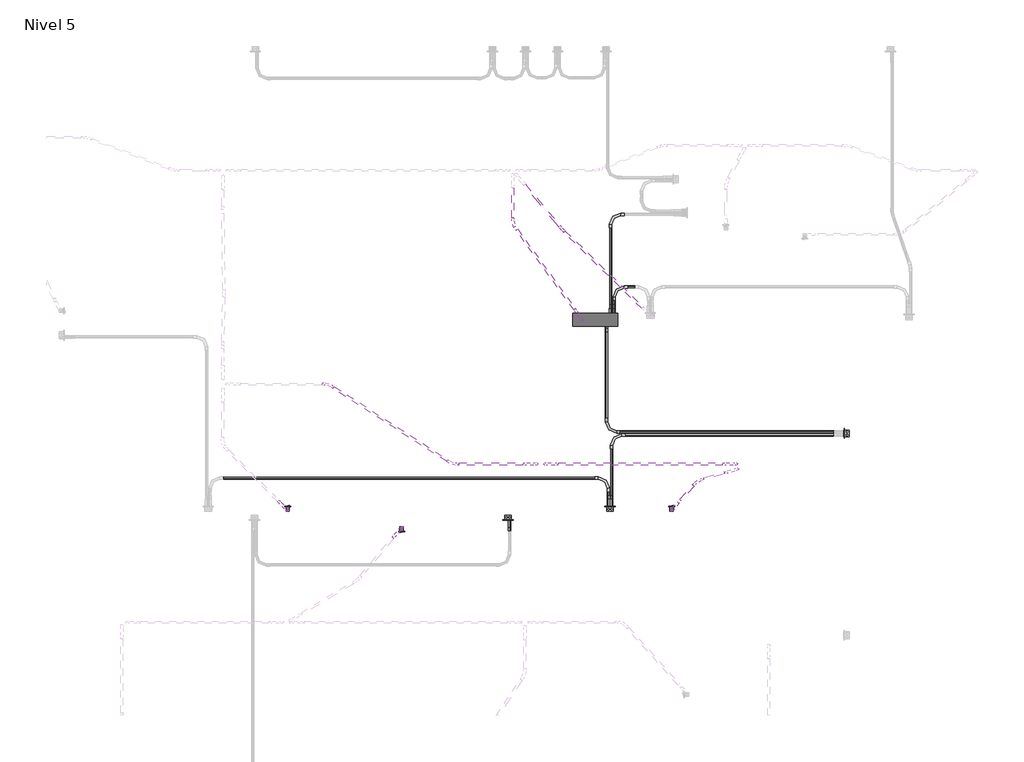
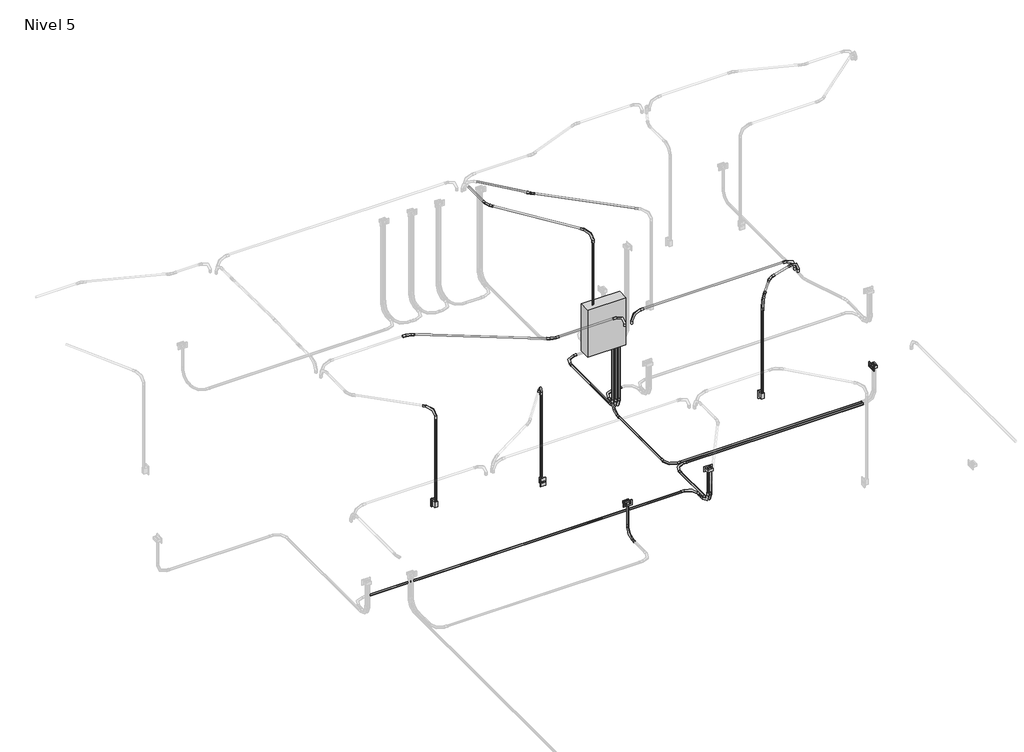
# One storey, part 7 of 9: 28 cable carrier segments, 24 cable carrier fittings, 4 proxies, 3 switching devices.
"""IFC4 building model written with IfcOpenShell, lengths in millimetres."""

from ifc_helpers import new_model, si_unit, point, frame, frame_2d, origin, place, context, project, spatial, circle_curve, trimmed, segment, composite_curve, outline, extrude, transform, mapped, element, save
from components import proxy_125_a_fe578df2, gfci_180f1b41, m_codo_de_tubo_extremo_liso_pvc_9da73e12, m_codo_de_tubo_extremo_liso_pvc_102f0f41, m_codo_de_tubo_extremo_liso_pvc_cdaa3b49, m_codo_de_tubo_extremo_liso_pvc_e85de414, m_codo_de_tubo_extremo_liso_pvc_7318c099, m_codo_de_tubo_extremo_liso_pvc_826ff18e, switching_device_22fed34b

model = new_model("IFC4")

# Units and contexts
model_context = context("Model", 3, world=origin())
ifc_project = project(units=[si_unit("LENGTHUNIT", "METRE", prefix="MILLI")], contexts=[model_context])

# Site, building, storey
site = spatial("IfcSite", under=ifc_project)
building = spatial("IfcBuilding", under=site)
storey = spatial("IfcBuildingStorey", under=building, Name="Nivel 5", Elevation=10750.0)

# Proxies
placement = place(None, origin())
proxy_125_a_shape = proxy_125_a_fe578df2(model_context)
element("IfcBuildingElementProxy", 1, Name="M_Cuadro de control de accesorios e iluminación - 480V MLO : 125 A", ObjectType="M_Cuadro de control de accesorios e iluminación - 480V MLO : 125 A", at=placement, inside=storey, context=model_context, shape_type="MappedRepresentation", body=[
    mapped(proxy_125_a_shape, transform((3493.4970517, 14550.3626818, 11576.1274047), x_axis=(-1.0, 0.0, 0.0), y_axis=(0.0, 0.0, 1.0), z_axis=(0.0, 1.0, 0.0))),
])
gfci_shape = gfci_180f1b41(model_context)
element("IfcBuildingElementProxy", 2, Name="Tomacorriente doble 220V : GFCI", ObjectType="Tomacorriente doble 220V : GFCI", at=placement, inside=storey, context=model_context, shape_type="MappedRepresentation", body=[
    mapped(gfci_shape, transform((6315.0, 13192.3594592, 11150.0), x_axis=(0.0, 0.0, 1.0), y_axis=(0.0, 1.0, 0.0), z_axis=(-1.0, 0.0, 0.0))),
])
element("IfcBuildingElementProxy", 3, Name="Tomacorriente doble 220V : GFCI", ObjectType="Tomacorriente doble 220V : GFCI", at=placement, inside=storey, context=model_context, shape_type="MappedRepresentation", body=[
    mapped(gfci_shape, transform((3662.7836306, 12365.0, 11150.0), x_axis=(0.0, 0.0, 1.0), y_axis=(1.0, 0.0, 0.0), z_axis=(0.0, 1.0, 0.0))),
])
element("IfcBuildingElementProxy", 4, Name="Tomacorriente doble 220V : GFCI", ObjectType="Tomacorriente doble 220V : GFCI", at=placement, inside=storey, context=model_context, shape_type="MappedRepresentation", body=[
    mapped(gfci_shape, transform((2508.0482108, 12215.0, 11150.0), x_axis=(0.0, 0.0, 1.0), y_axis=(-1.0, 0.0, 0.0), z_axis=(0.0, -1.0, 0.0))),
])

# Cable carrier fittings
m_codo_de_tubo_extremo_liso_pvc_shape = m_codo_de_tubo_extremo_liso_pvc_9da73e12(model_context)
element("IfcCableCarrierFitting", 5, ObjectType="M_Codo de tubo - Extremo liso - PVC : CODO POTENCIA", at=placement, inside=storey, context=model_context, shape_type="MappedRepresentation", body=[
    mapped(m_codo_de_tubo_extremo_liso_pvc_shape, transform((3709.8252301, 14850.3628882, 10680.0), x_axis=(-1.0, 0.0, 0.0), y_axis=(0.0, -1.0, 0.0), z_axis=(0.0, 0.0, 1.0))),
])
element("IfcCableCarrierFitting", 6, ObjectType="M_Codo de tubo - Extremo liso - PVC : CODO POTENCIA", at=placement, inside=storey, context=model_context, shape_type="MappedRepresentation", body=[
    mapped(m_codo_de_tubo_extremo_liso_pvc_shape, transform((3669.8252301, 15670.7829676, 10680.0), x_axis=(-1.0, 0.0, 0.0), y_axis=(0.0, -1.0, 0.0), z_axis=(0.0, 0.0, 1.0))),
])
element("IfcCableCarrierFitting", 7, ObjectType="M_Codo de tubo - Extremo liso - PVC : CODO POTENCIA", at=placement, inside=storey, context=model_context, shape_type="MappedRepresentation", body=[
    mapped(m_codo_de_tubo_extremo_liso_pvc_shape, transform((3644.7518108, 12335.3628882, 10680.0), x_axis=(0.0, 0.0, -1.0), y_axis=(0.0, 1.0, 0.0), z_axis=(1.0, 0.0, 0.0))),
])
element("IfcCableCarrierFitting", 8, ObjectType="M_Codo de tubo - Extremo liso - PVC : CODO POTENCIA", at=placement, inside=storey, context=model_context, shape_type="MappedRepresentation", body=[
    mapped(m_codo_de_tubo_extremo_liso_pvc_shape, transform((3622.5526062, 13210.391279, 10680.0), x_axis=(0.0, -1.0, 0.0), y_axis=(1.0, 0.0, 0.0), z_axis=(0.0, 0.0, 1.0))),
])
element("IfcCableCarrierFitting", 9, ObjectType="M_Codo de tubo - Extremo liso - PVC : CODO POTENCIA", at=placement, inside=storey, context=model_context, shape_type="MappedRepresentation", body=[
    mapped(m_codo_de_tubo_extremo_liso_pvc_shape, transform((3680.8154504, 13174.3276394, 10680.0), x_axis=(-1.0, 0.0, 0.0), y_axis=(0.0, -1.0, 0.0), z_axis=(0.0, 0.0, 1.0))),
])
element("IfcCableCarrierFitting", 10, ObjectType="M_Codo de tubo - Extremo liso - PVC : CODO POTENCIA", at=placement, inside=storey, context=model_context, shape_type="MappedRepresentation", body=[
    mapped(m_codo_de_tubo_extremo_liso_pvc_shape, transform((3680.8154504, 12335.3628882, 10680.0), x_axis=(0.0, 0.0, -1.0), y_axis=(0.0, 1.0, 0.0), z_axis=(1.0, 0.0, 0.0))),
])
element("IfcCableCarrierFitting", 11, ObjectType="M_Codo de tubo - Extremo liso - PVC : CODO POTENCIA", at=placement, inside=storey, context=model_context, shape_type="MappedRepresentation", body=[
    mapped(m_codo_de_tubo_extremo_liso_pvc_shape, transform((3644.7518108, 12686.2303985, 10680.0), x_axis=(0.0, 1.0, 0.0), y_axis=(-1.0, 0.0, 0.0), z_axis=(0.0, 0.0, 1.0))),
])
element("IfcCableCarrierFitting", 12, ObjectType="M_Codo de tubo - Extremo liso - PVC : CODO POTENCIA", at=placement, inside=storey, context=model_context, shape_type="MappedRepresentation", body=[
    mapped(m_codo_de_tubo_extremo_liso_pvc_shape, transform((2526.0800306, 12244.6371118, 10680.0), x_axis=(0.0, 0.0, -1.0), y_axis=(0.0, -1.0, 0.0), z_axis=(-1.0, 0.0, 0.0))),
])
element("IfcCableCarrierFitting", 13, ObjectType="M_Codo de tubo - Extremo liso - PVC : CODO POTENCIA", at=placement, inside=storey, context=model_context, shape_type="MappedRepresentation", body=[
    mapped(m_codo_de_tubo_extremo_liso_pvc_shape, transform((3709.8252301, 14495.3628882, 10680.0), x_axis=(0.0, -1.0, 0.0), y_axis=(0.0, 0.0, 1.0), z_axis=(-1.0, 0.0, 0.0))),
])
element("IfcCableCarrierFitting", 14, ObjectType="M_Codo de tubo - Extremo liso - PVC : CODO POTENCIA", at=placement, inside=storey, context=model_context, shape_type="MappedRepresentation", body=[
    mapped(m_codo_de_tubo_extremo_liso_pvc_shape, transform((3669.8252301, 14495.3628882, 10680.0), x_axis=(0.0, -1.0, 0.0), y_axis=(0.0, 0.0, 1.0), z_axis=(-1.0, 0.0, 0.0))),
])
element("IfcCableCarrierFitting", 15, ObjectType="M_Codo de tubo - Extremo liso - PVC : CODO POTENCIA", at=placement, inside=storey, context=model_context, shape_type="MappedRepresentation", body=[
    mapped(m_codo_de_tubo_extremo_liso_pvc_shape, transform((3622.5526062, 14495.3628882, 10680.0), x_axis=(0.0, 1.0, 0.0), y_axis=(0.0, 0.0, 1.0), z_axis=(1.0, 0.0, 0.0))),
])
element("IfcCableCarrierFitting", 16, ObjectType="M_Codo de tubo - Extremo liso - PVC : CODO ILUMINACION", at=placement, inside=storey, context=model_context, shape_type="MappedRepresentation", body=[
    mapped(m_codo_de_tubo_extremo_liso_pvc_shape, transform((2926.1031367, 12846.0654967, 13300.0), x_axis=(-1.0, 0.0, 0.0), y_axis=(0.0, 0.0, -1.0), z_axis=(0.0, -1.0, 0.0))),
])
element("IfcCableCarrierFitting", 17, ObjectType="M_Codo de tubo - Extremo liso - PVC : CODO ILUMINACION", at=placement, inside=storey, context=model_context, shape_type="MappedRepresentation", body=[
    mapped(m_codo_de_tubo_extremo_liso_pvc_shape, transform((17.0083304, 12321.8611243, 13300.0), x_axis=(0.0, 0.0, 1.0), y_axis=(-0.7071067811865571, 0.7071067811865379, 0.0), z_axis=(-0.7071067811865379, -0.7071067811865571, 0.0))),
])
element("IfcCableCarrierFitting", 18, ObjectType="M_Codo de tubo - Extremo liso - PVC : CODO ILUMINACION", at=placement, inside=storey, context=model_context, shape_type="MappedRepresentation", body=[
    mapped(m_codo_de_tubo_extremo_liso_pvc_shape, transform((5104.9288941, 12788.5092826, 13300.0), x_axis=(0.9612616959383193, 0.275637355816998, 0.0), y_axis=(0.0, 0.0, -1.0000000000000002), z_axis=(-0.275637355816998, 0.9612616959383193, 0.0))),
])
element("IfcCableCarrierFitting", 19, ObjectType="M_Codo de tubo - Extremo liso - PVC : CODO ILUMINACION", at=placement, inside=storey, context=model_context, shape_type="MappedRepresentation", body=[
    mapped(m_codo_de_tubo_extremo_liso_pvc_shape, transform((4359.8045862, 12321.8611243, 13300.0), x_axis=(0.0, 0.0, 1.0), y_axis=(0.6560590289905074, 0.754709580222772, 0.0), z_axis=(-0.754709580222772, 0.6560590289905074, 0.0))),
])
element("IfcCableCarrierFitting", 20, ObjectType="M_Codo de tubo - Extremo liso - PVC : CODO ILUMINACION", at=placement, inside=storey, context=model_context, shape_type="MappedRepresentation", body=[
    mapped(m_codo_de_tubo_extremo_liso_pvc_shape, transform((3350.6039381, 14474.7016465, 13300.0), x_axis=(0.5877852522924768, -0.8090169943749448, 0.0), y_axis=(0.0, 0.0, -1.0), z_axis=(0.8090169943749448, 0.5877852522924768, 0.0))),
])
element("IfcCableCarrierFitting", 21, ObjectType="M_Codo de tubo - Extremo liso - PVC : CODO ILUMINACION", at=placement, inside=storey, context=model_context, shape_type="MappedRepresentation", body=[
    mapped(m_codo_de_tubo_extremo_liso_pvc_shape, transform((1305.4382788, 12128.1388757, 13300.0), x_axis=(0.0, 0.0, 1.0), y_axis=(-0.6427876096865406, -0.7660444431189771, 0.0), z_axis=(0.7660444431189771, -0.6427876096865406, 0.0))),
])
m_codo_de_tubo_extremo_liso_pvc_2_shape = m_codo_de_tubo_extremo_liso_pvc_102f0f41(model_context)
element("IfcCableCarrierFitting", 22, ObjectType="M_Codo de tubo - Extremo liso - PVC : CODO ILUMINACION", at=placement, inside=storey, context=model_context, shape_type="MappedRepresentation", body=[
    mapped(m_codo_de_tubo_extremo_liso_pvc_2_shape, transform((2832.9507178, 12846.0654967, 13300.0), x_axis=(1.0, 0.0, 0.0), y_axis=(0.0, 0.0, 1.0), z_axis=(0.0, -1.0, 0.0))),
])
element("IfcCableCarrierFitting", 23, ObjectType="M_Codo de tubo - Extremo liso - PVC : CODO ILUMINACION", at=placement, inside=storey, context=model_context, shape_type="MappedRepresentation", body=[
    mapped(m_codo_de_tubo_extremo_liso_pvc_2_shape, transform((5092.9046473, 12846.0654967, 13300.0), x_axis=(1.0, 0.0, 0.0), y_axis=(0.0, 0.0, 1.0), z_axis=(0.0, -1.0, 0.0))),
])
m_codo_de_tubo_extremo_liso_pvc_3_shape = m_codo_de_tubo_extremo_liso_pvc_cdaa3b49(model_context)
element("IfcCableCarrierFitting", 24, ObjectType="M_Codo de tubo - Extremo liso - PVC : CODO ILUMINACION", at=placement, inside=storey, context=model_context, shape_type="MappedRepresentation", body=[
    mapped(m_codo_de_tubo_extremo_liso_pvc_3_shape, transform((476.9693718, 13749.9859322, 13300.0), x_axis=(-0.8407373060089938, 0.5414432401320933, 0.0), y_axis=(-0.5414432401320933, -0.8407373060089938, 0.0), z_axis=(0.0, 0.0, 1.0))),
])
element("IfcCableCarrierFitting", 25, ObjectType="M_Codo de tubo - Extremo liso - PVC : CODO ILUMINACION", at=placement, inside=storey, context=model_context, shape_type="MappedRepresentation", body=[
    mapped(m_codo_de_tubo_extremo_liso_pvc_3_shape, transform((1880.5507178, 12846.0654967, 13300.0), x_axis=(0.840737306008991, -0.5414432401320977, 0.0), y_axis=(0.5414432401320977, 0.840737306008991, 0.0), z_axis=(0.0, 0.0, 1.0))),
])
m_codo_de_tubo_extremo_liso_pvc_4_shape = m_codo_de_tubo_extremo_liso_pvc_e85de414(model_context)
element("IfcCableCarrierFitting", 26, ObjectType="M_Codo de tubo - Extremo liso - PVC : CODO ILUMINACION", at=placement, inside=storey, context=model_context, shape_type="MappedRepresentation", body=[
    mapped(m_codo_de_tubo_extremo_liso_pvc_4_shape, transform((4652.7416604, 12658.8466799, 13300.0), x_axis=(-0.9612616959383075, -0.2756373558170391, 0.0), y_axis=(0.2756373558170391, -0.9612616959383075, 0.0), z_axis=(0.0, 0.0, 1.0))),
])
m_codo_de_tubo_extremo_liso_pvc_5_shape = m_codo_de_tubo_extremo_liso_pvc_7318c099(model_context)
element("IfcCableCarrierFitting", 27, ObjectType="M_Codo de tubo - Extremo liso - PVC : CODO ILUMINACION", at=placement, inside=storey, context=model_context, shape_type="MappedRepresentation", body=[
    mapped(m_codo_de_tubo_extremo_liso_pvc_5_shape, transform((2562.9717001, 15558.7844189, 13300.0), x_axis=(0.0, -1.0, 0.0), y_axis=(1.0, 0.0, 0.0), z_axis=(0.0, 0.0, 1.0))),
])
m_codo_de_tubo_extremo_liso_pvc_6_shape = m_codo_de_tubo_extremo_liso_pvc_826ff18e(model_context)
element("IfcCableCarrierFitting", 28, ObjectType="M_Codo de tubo - Extremo liso - PVC : CODO ILUMINACION", at=placement, inside=storey, context=model_context, shape_type="MappedRepresentation", body=[
    mapped(m_codo_de_tubo_extremo_liso_pvc_6_shape, transform((3117.5527431, 15503.7560483, 13300.0), x_axis=(0.6427876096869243, -0.766044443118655, 0.0), y_axis=(0.766044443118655, 0.6427876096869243, 0.0), z_axis=(0.0, 0.0, 1.0))),
])

# Cable carrier segments
element("IfcCableCarrierSegment", 29, ObjectType="PVC-SEL, POTENCIA", at=placement, inside=storey, context=model_context, shape_type="SweptSolid", body=[
    extrude(outline(composite_curve([segment(trimmed(circle_curve(frame_2d((10680.0, 3709.8252301)), 11.71), [point((10680.0, 3698.1152301))], [point((10668.29, 3709.8252301))], False, "CARTESIAN"), True, "CONTINUOUS"), segment(trimmed(circle_curve(frame_2d((10680.0, 3709.8252301)), 11.71), [point((10668.29, 3709.8252301))], [point((10680.0, 3721.5352301))], False, "CARTESIAN"), True, "CONTINUOUS"), segment(trimmed(circle_curve(frame_2d((10680.0, 3709.8252301)), 11.71), [point((10680.0, 3721.5352301))], [point((10691.71, 3709.8252301))], False, "CARTESIAN"), True, "CONTINUOUS"), segment(trimmed(circle_curve(frame_2d((10680.0, 3709.8252301)), 11.71), [point((10691.71, 3709.8252301))], [point((10680.0, 3698.1152301))], False, "CARTESIAN"), True, "CONTINUOUS")], self_intersect=False)), frame((0.0, 14647.7628882, 0.0), z_axis=(0.0, 1.0, 0.0), x_axis=(0.0, 0.0, 1.0)), (0.0, 0.0, 1.0), 50.2),
])
element("IfcCableCarrierSegment", 30, ObjectType="PVC-SEL, POTENCIA", at=placement, inside=storey, context=model_context, shape_type="SweptSolid", body=[
    extrude(outline(composite_curve([segment(trimmed(circle_curve(frame_2d((10680.0, 3669.8252301)), 11.71), [point((10680.0, 3658.1152301))], [point((10668.29, 3669.8252301))], False, "CARTESIAN"), True, "CONTINUOUS"), segment(trimmed(circle_curve(frame_2d((10680.0, 3669.8252301)), 11.71), [point((10668.29, 3669.8252301))], [point((10680.0, 3681.5352301))], False, "CARTESIAN"), True, "CONTINUOUS"), segment(trimmed(circle_curve(frame_2d((10680.0, 3669.8252301)), 11.71), [point((10680.0, 3681.5352301))], [point((10691.71, 3669.8252301))], False, "CARTESIAN"), True, "CONTINUOUS"), segment(trimmed(circle_curve(frame_2d((10680.0, 3669.8252301)), 11.71), [point((10691.71, 3669.8252301))], [point((10680.0, 3658.1152301))], False, "CARTESIAN"), True, "CONTINUOUS")], self_intersect=False)), frame((0.0, 14647.7628882, 0.0), z_axis=(0.0, 1.0, 0.0), x_axis=(0.0, 0.0, 1.0)), (0.0, 0.0, 1.0), 870.6200794),
])
element("IfcCableCarrierSegment", 31, ObjectType="PVC-SEL, POTENCIA", at=placement, inside=storey, context=model_context, shape_type="SweptSolid", body=[
    extrude(outline(composite_curve([segment(trimmed(circle_curve(frame_2d((14850.3628882, 10680.0)), 11.71), [point((14862.0728882, 10680.0))], [point((14850.3628882, 10668.29))], False, "CARTESIAN"), True, "CONTINUOUS"), segment(trimmed(circle_curve(frame_2d((14850.3628882, 10680.0)), 11.71), [point((14850.3628882, 10668.29))], [point((14838.6528882, 10680.0))], False, "CARTESIAN"), True, "CONTINUOUS"), segment(trimmed(circle_curve(frame_2d((14850.3628882, 10680.0)), 11.71), [point((14838.6528882, 10680.0))], [point((14850.3628882, 10691.71))], False, "CARTESIAN"), True, "CONTINUOUS"), segment(trimmed(circle_curve(frame_2d((14850.3628882, 10680.0)), 11.71), [point((14850.3628882, 10691.71))], [point((14862.0728882, 10680.0))], False, "CARTESIAN"), True, "CONTINUOUS")], self_intersect=False)), frame((3862.2252301, 0.0, 0.0), z_axis=(1.0, 0.0, 0.0), x_axis=(0.0, 1.0, 0.0)), (0.0, 0.0, 1.0), 85.2),
])
element("IfcCableCarrierSegment", 32, ObjectType="PVC-SEL, POTENCIA", at=placement, inside=storey, context=model_context, shape_type="SweptSolid", body=[
    extrude(outline(composite_curve([segment(trimmed(circle_curve(frame_2d((10680.0, 3622.5526062)), 11.71), [point((10680.0, 3634.2626062))], [point((10691.71, 3622.5526062))], False, "CARTESIAN"), True, "CONTINUOUS"), segment(trimmed(circle_curve(frame_2d((10680.0, 3622.5526062)), 11.71), [point((10691.71, 3622.5526062))], [point((10680.0, 3610.8426062))], False, "CARTESIAN"), True, "CONTINUOUS"), segment(trimmed(circle_curve(frame_2d((10680.0, 3622.5526062)), 11.71), [point((10680.0, 3610.8426062))], [point((10668.29, 3622.5526062))], False, "CARTESIAN"), True, "CONTINUOUS"), segment(trimmed(circle_curve(frame_2d((10680.0, 3622.5526062)), 11.71), [point((10668.29, 3622.5526062))], [point((10680.0, 3634.2626062))], False, "CARTESIAN"), True, "CONTINUOUS")], self_intersect=False)), frame((0.0, 13362.791279, 0.0), z_axis=(0.0, 1.0, 0.0), x_axis=(0.0, 0.0, 1.0)), (0.0, 0.0, 1.0), 980.1716092),
])
element("IfcCableCarrierSegment", 33, ObjectType="PVC-SEL, POTENCIA", at=placement, inside=storey, context=model_context, shape_type="SweptSolid", body=[
    extrude(outline(composite_curve([segment(trimmed(circle_curve(frame_2d((13210.391279, 10680.0)), 11.71), [point((13198.681279, 10680.0))], [point((13210.391279, 10691.71))], False, "CARTESIAN"), True, "CONTINUOUS"), segment(trimmed(circle_curve(frame_2d((13210.391279, 10680.0)), 11.71), [point((13210.391279, 10691.71))], [point((13222.101279, 10680.0))], False, "CARTESIAN"), True, "CONTINUOUS"), segment(trimmed(circle_curve(frame_2d((13210.391279, 10680.0)), 11.71), [point((13222.101279, 10680.0))], [point((13210.391279, 10668.29))], False, "CARTESIAN"), True, "CONTINUOUS"), segment(trimmed(circle_curve(frame_2d((13210.391279, 10680.0)), 11.71), [point((13210.391279, 10668.29))], [point((13198.681279, 10680.0))], False, "CARTESIAN"), True, "CONTINUOUS")], self_intersect=False)), frame((3774.9526062, 0.0, 0.0), z_axis=(1.0, 0.0, 0.0), x_axis=(0.0, 1.0, 0.0)), (0.0, 0.0, 1.0), 2417.2845056),
])
element("IfcCableCarrierSegment", 34, ObjectType="PVC-SEL, POTENCIA", at=placement, inside=storey, context=model_context, shape_type="SweptSolid", body=[
    extrude(outline(composite_curve([segment(trimmed(circle_curve(frame_2d((13174.3276394, 10680.0)), 11.71), [point((13186.0376394, 10680.0))], [point((13174.3276394, 10668.29))], False, "CARTESIAN"), True, "CONTINUOUS"), segment(trimmed(circle_curve(frame_2d((13174.3276394, 10680.0)), 11.71), [point((13174.3276394, 10668.29))], [point((13162.6176394, 10680.0))], False, "CARTESIAN"), True, "CONTINUOUS"), segment(trimmed(circle_curve(frame_2d((13174.3276394, 10680.0)), 11.71), [point((13162.6176394, 10680.0))], [point((13174.3276394, 10691.71))], False, "CARTESIAN"), True, "CONTINUOUS"), segment(trimmed(circle_curve(frame_2d((13174.3276394, 10680.0)), 11.71), [point((13174.3276394, 10691.71))], [point((13186.0376394, 10680.0))], False, "CARTESIAN"), True, "CONTINUOUS")], self_intersect=False)), frame((3833.2154504, 0.0, 0.0), z_axis=(1.0, 0.0, 0.0), x_axis=(0.0, 1.0, 0.0)), (0.0, 0.0, 1.0), 2359.0216613),
])
element("IfcCableCarrierSegment", 35, ObjectType="PVC-SEL, POTENCIA", at=placement, inside=storey, context=model_context, shape_type="SweptSolid", body=[
    extrude(outline(composite_curve([segment(trimmed(circle_curve(frame_2d((10680.0, 3680.8154504)), 11.71), [point((10680.0, 3669.1054504))], [point((10668.29, 3680.8154504))], False, "CARTESIAN"), True, "CONTINUOUS"), segment(trimmed(circle_curve(frame_2d((10680.0, 3680.8154504)), 11.71), [point((10668.29, 3680.8154504))], [point((10680.0, 3692.5254504))], False, "CARTESIAN"), True, "CONTINUOUS"), segment(trimmed(circle_curve(frame_2d((10680.0, 3680.8154504)), 11.71), [point((10680.0, 3692.5254504))], [point((10691.71, 3680.8154504))], False, "CARTESIAN"), True, "CONTINUOUS"), segment(trimmed(circle_curve(frame_2d((10680.0, 3680.8154504)), 11.71), [point((10691.71, 3680.8154504))], [point((10680.0, 3669.1054504))], False, "CARTESIAN"), True, "CONTINUOUS")], self_intersect=False)), frame((0.0, 12487.7628882, 0.0), z_axis=(0.0, 1.0, 0.0), x_axis=(0.0, 0.0, 1.0)), (0.0, 0.0, 1.0), 534.1647512),
])
element("IfcCableCarrierSegment", 36, ObjectType="PVC-SEL, POTENCIA", at=placement, inside=storey, context=model_context, shape_type="SweptSolid", body=[
    extrude(outline(composite_curve([segment(trimmed(circle_curve(frame_2d((3680.8154504, 12335.3628882)), 11.71), [point((3692.5254504, 12335.3628882))], [point((3680.8154504, 12323.6528882))], False, "CARTESIAN"), True, "CONTINUOUS"), segment(trimmed(circle_curve(frame_2d((3680.8154504, 12335.3628882)), 11.71), [point((3680.8154504, 12323.6528882))], [point((3669.1054504, 12335.3628882))], False, "CARTESIAN"), True, "CONTINUOUS"), segment(trimmed(circle_curve(frame_2d((3680.8154504, 12335.3628882)), 11.71), [point((3669.1054504, 12335.3628882))], [point((3680.8154504, 12347.0728882))], False, "CARTESIAN"), True, "CONTINUOUS"), segment(trimmed(circle_curve(frame_2d((3680.8154504, 12335.3628882)), 11.71), [point((3680.8154504, 12347.0728882))], [point((3692.5254504, 12335.3628882))], False, "CARTESIAN"), True, "CONTINUOUS")], self_intersect=False)), frame((0.0, 0.0, 10832.4), z_axis=(0.0, 0.0, 1.0), x_axis=(1.0, 0.0, 0.0)), (0.0, 0.0, 1.0), 297.3020537),
])
element("IfcCableCarrierSegment", 37, ObjectType="PVC-SEL, POTENCIA", at=placement, inside=storey, context=model_context, shape_type="SweptSolid", body=[
    extrude(outline(composite_curve([segment(trimmed(circle_curve(frame_2d((10680.0, 3644.7518108)), 11.71), [point((10680.0, 3656.4618108))], [point((10691.71, 3644.7518108))], False, "CARTESIAN"), True, "CONTINUOUS"), segment(trimmed(circle_curve(frame_2d((10680.0, 3644.7518108)), 11.71), [point((10691.71, 3644.7518108))], [point((10680.0, 3633.0418108))], False, "CARTESIAN"), True, "CONTINUOUS"), segment(trimmed(circle_curve(frame_2d((10680.0, 3644.7518108)), 11.71), [point((10680.0, 3633.0418108))], [point((10668.29, 3644.7518108))], False, "CARTESIAN"), True, "CONTINUOUS"), segment(trimmed(circle_curve(frame_2d((10680.0, 3644.7518108)), 11.71), [point((10668.29, 3644.7518108))], [point((10680.0, 3656.4618108))], False, "CARTESIAN"), True, "CONTINUOUS")], self_intersect=False)), frame((0.0, 12487.7628882, 0.0), z_axis=(0.0, 1.0, 0.0), x_axis=(0.0, 0.0, 1.0)), (0.0, 0.0, 1.0), 46.0675103),
])
element("IfcCableCarrierSegment", 38, ObjectType="PVC-SEL, POTENCIA", at=placement, inside=storey, context=model_context, shape_type="SweptSolid", body=[
    extrude(outline(composite_curve([segment(trimmed(circle_curve(frame_2d((3644.7518108, 12335.3628882)), 11.71), [point((3656.4618108, 12335.3628882))], [point((3644.7518108, 12323.6528882))], False, "CARTESIAN"), True, "CONTINUOUS"), segment(trimmed(circle_curve(frame_2d((3644.7518108, 12335.3628882)), 11.71), [point((3644.7518108, 12323.6528882))], [point((3633.0418108, 12335.3628882))], False, "CARTESIAN"), True, "CONTINUOUS"), segment(trimmed(circle_curve(frame_2d((3644.7518108, 12335.3628882)), 11.71), [point((3633.0418108, 12335.3628882))], [point((3644.7518108, 12347.0728882))], False, "CARTESIAN"), True, "CONTINUOUS"), segment(trimmed(circle_curve(frame_2d((3644.7518108, 12335.3628882)), 11.71), [point((3644.7518108, 12347.0728882))], [point((3656.4618108, 12335.3628882))], False, "CARTESIAN"), True, "CONTINUOUS")], self_intersect=False)), frame((0.0, 0.0, 10832.4), z_axis=(0.0, 0.0, 1.0), x_axis=(1.0, 0.0, 0.0)), (0.0, 0.0, 1.0), 297.3020537),
])
element("IfcCableCarrierSegment", 39, ObjectType="PVC-SEL, POTENCIA", at=placement, inside=storey, context=model_context, shape_type="SweptSolid", body=[
    extrude(outline(composite_curve([segment(trimmed(circle_curve(frame_2d((12686.2303985, 10680.0)), 11.71), [point((12697.9403985, 10680.0))], [point((12686.2303985, 10668.29))], False, "CARTESIAN"), True, "CONTINUOUS"), segment(trimmed(circle_curve(frame_2d((12686.2303985, 10680.0)), 11.71), [point((12686.2303985, 10668.29))], [point((12674.5203985, 10680.0))], False, "CARTESIAN"), True, "CONTINUOUS"), segment(trimmed(circle_curve(frame_2d((12686.2303985, 10680.0)), 11.71), [point((12674.5203985, 10680.0))], [point((12686.2303985, 10691.71))], False, "CARTESIAN"), True, "CONTINUOUS"), segment(trimmed(circle_curve(frame_2d((12686.2303985, 10680.0)), 11.71), [point((12686.2303985, 10691.71))], [point((12697.9403985, 10680.0))], False, "CARTESIAN"), True, "CONTINUOUS")], self_intersect=False)), frame((-711.8307859, 0.0, 0.0), z_axis=(1.0, 0.0, 0.0), x_axis=(0.0, 1.0, 0.0)), (0.0, 0.0, 1.0), 4204.1825967),
])
element("IfcCableCarrierSegment", 40, ObjectType="PVC-SEL, POTENCIA", at=placement, inside=storey, context=model_context, shape_type="SweptSolid", body=[
    extrude(outline(composite_curve([segment(trimmed(circle_curve(frame_2d((2526.0800306, 12244.6371118)), 11.71), [point((2537.7900306, 12244.6371118))], [point((2526.0800306, 12232.9271118))], False, "CARTESIAN"), True, "CONTINUOUS"), segment(trimmed(circle_curve(frame_2d((2526.0800306, 12244.6371118)), 11.71), [point((2526.0800306, 12232.9271118))], [point((2514.3700306, 12244.6371118))], False, "CARTESIAN"), True, "CONTINUOUS"), segment(trimmed(circle_curve(frame_2d((2526.0800306, 12244.6371118)), 11.71), [point((2514.3700306, 12244.6371118))], [point((2526.0800306, 12256.3471118))], False, "CARTESIAN"), True, "CONTINUOUS"), segment(trimmed(circle_curve(frame_2d((2526.0800306, 12244.6371118)), 11.71), [point((2526.0800306, 12256.3471118))], [point((2537.7900306, 12244.6371118))], False, "CARTESIAN"), True, "CONTINUOUS")], self_intersect=False)), frame((0.0, 0.0, 10832.4), z_axis=(0.0, 0.0, 1.0), x_axis=(1.0, 0.0, 0.0)), (0.0, 0.0, 1.0), 297.3020537),
])
element("IfcCableCarrierSegment", 41, ObjectType="PVC-SEL, POTENCIA", at=placement, inside=storey, context=model_context, shape_type="SweptSolid", body=[
    extrude(outline(composite_curve([segment(trimmed(circle_curve(frame_2d((3709.8252301, 14495.3628882)), 11.71), [point((3698.1152301, 14495.3628882))], [point((3709.8252301, 14507.0728882))], False, "CARTESIAN"), True, "CONTINUOUS"), segment(trimmed(circle_curve(frame_2d((3709.8252301, 14495.3628882)), 11.71), [point((3709.8252301, 14507.0728882))], [point((3721.5352301, 14495.3628882))], False, "CARTESIAN"), True, "CONTINUOUS"), segment(trimmed(circle_curve(frame_2d((3709.8252301, 14495.3628882)), 11.71), [point((3721.5352301, 14495.3628882))], [point((3709.8252301, 14483.6528882))], False, "CARTESIAN"), True, "CONTINUOUS"), segment(trimmed(circle_curve(frame_2d((3709.8252301, 14495.3628882)), 11.71), [point((3709.8252301, 14483.6528882))], [point((3698.1152301, 14495.3628882))], False, "CARTESIAN"), True, "CONTINUOUS")], self_intersect=False)), frame((0.0, 0.0, 10832.4), z_axis=(0.0, 0.0, 1.0), x_axis=(1.0, 0.0, 0.0)), (0.0, 0.0, 1.0), 817.6),
])
element("IfcCableCarrierSegment", 42, ObjectType="PVC-SEL, POTENCIA", at=placement, inside=storey, context=model_context, shape_type="SweptSolid", body=[
    extrude(outline(composite_curve([segment(trimmed(circle_curve(frame_2d((3669.8252301, 14495.3628882)), 11.71), [point((3658.1152301, 14495.3628882))], [point((3669.8252301, 14507.0728882))], False, "CARTESIAN"), True, "CONTINUOUS"), segment(trimmed(circle_curve(frame_2d((3669.8252301, 14495.3628882)), 11.71), [point((3669.8252301, 14507.0728882))], [point((3681.5352301, 14495.3628882))], False, "CARTESIAN"), True, "CONTINUOUS"), segment(trimmed(circle_curve(frame_2d((3669.8252301, 14495.3628882)), 11.71), [point((3681.5352301, 14495.3628882))], [point((3669.8252301, 14483.6528882))], False, "CARTESIAN"), True, "CONTINUOUS"), segment(trimmed(circle_curve(frame_2d((3669.8252301, 14495.3628882)), 11.71), [point((3669.8252301, 14483.6528882))], [point((3658.1152301, 14495.3628882))], False, "CARTESIAN"), True, "CONTINUOUS")], self_intersect=False)), frame((0.0, 0.0, 10832.4), z_axis=(0.0, 0.0, 1.0), x_axis=(1.0, 0.0, 0.0)), (0.0, 0.0, 1.0), 817.6),
])
element("IfcCableCarrierSegment", 43, ObjectType="PVC-SEL, POTENCIA", at=placement, inside=storey, context=model_context, shape_type="SweptSolid", body=[
    extrude(outline(composite_curve([segment(trimmed(circle_curve(frame_2d((3622.5526062, 14495.3628882)), 11.71), [point((3610.8426062, 14495.3628882))], [point((3622.5526062, 14507.0728882))], False, "CARTESIAN"), True, "CONTINUOUS"), segment(trimmed(circle_curve(frame_2d((3622.5526062, 14495.3628882)), 11.71), [point((3622.5526062, 14507.0728882))], [point((3634.2626062, 14495.3628882))], False, "CARTESIAN"), True, "CONTINUOUS"), segment(trimmed(circle_curve(frame_2d((3622.5526062, 14495.3628882)), 11.71), [point((3634.2626062, 14495.3628882))], [point((3622.5526062, 14483.6528882))], False, "CARTESIAN"), True, "CONTINUOUS"), segment(trimmed(circle_curve(frame_2d((3622.5526062, 14495.3628882)), 11.71), [point((3622.5526062, 14483.6528882))], [point((3610.8426062, 14495.3628882))], False, "CARTESIAN"), True, "CONTINUOUS")], self_intersect=False)), frame((0.0, 0.0, 10832.4), z_axis=(0.0, 0.0, 1.0), x_axis=(1.0, 0.0, 0.0)), (0.0, 0.0, 1.0), 817.6),
])
element("IfcCableCarrierSegment", 44, ObjectType="PVC-SEL ILUMINACION", at=placement, inside=storey, context=model_context, shape_type="SweptSolid", body=[
    extrude(outline(composite_curve([segment(trimmed(circle_curve(frame_2d((12846.0654967, 13300.0)), 11.71), [point((12857.7754967, 13300.0))], [point((12846.0654967, 13288.29))], False, "CARTESIAN"), True, "CONTINUOUS"), segment(trimmed(circle_curve(frame_2d((12846.0654967, 13300.0)), 11.71), [point((12846.0654967, 13288.29))], [point((12834.3554967, 13300.0))], False, "CARTESIAN"), True, "CONTINUOUS"), segment(trimmed(circle_curve(frame_2d((12846.0654967, 13300.0)), 11.71), [point((12834.3554967, 13300.0))], [point((12846.0654967, 13311.71))], False, "CARTESIAN"), True, "CONTINUOUS"), segment(trimmed(circle_curve(frame_2d((12846.0654967, 13300.0)), 11.71), [point((12846.0654967, 13311.71))], [point((12857.7754967, 13300.0))], False, "CARTESIAN"), True, "CONTINUOUS")], self_intersect=False)), frame((3078.5031367, 0.0, 0.0), z_axis=(1.0, 0.0, 0.0), x_axis=(0.0, 1.0, 0.0)), (0.0, 0.0, 1.0), 1862.0015106),
])
element("IfcCableCarrierSegment", 45, ObjectType="PVC-SEL ILUMINACION", at=placement, inside=storey, context=model_context, shape_type="SweptSolid", body=[
    extrude(outline(composite_curve([segment(trimmed(circle_curve(frame_2d((12846.0654967, 13300.0)), 11.71), [point((12857.7754967, 13300.0))], [point((12846.0654967, 13288.29))], False, "CARTESIAN"), True, "CONTINUOUS"), segment(trimmed(circle_curve(frame_2d((12846.0654967, 13300.0)), 11.71), [point((12846.0654967, 13288.29))], [point((12834.3554967, 13300.0))], False, "CARTESIAN"), True, "CONTINUOUS"), segment(trimmed(circle_curve(frame_2d((12846.0654967, 13300.0)), 11.71), [point((12834.3554967, 13300.0))], [point((12846.0654967, 13311.71))], False, "CARTESIAN"), True, "CONTINUOUS"), segment(trimmed(circle_curve(frame_2d((12846.0654967, 13300.0)), 11.71), [point((12846.0654967, 13311.71))], [point((12857.7754967, 13300.0))], False, "CARTESIAN"), True, "CONTINUOUS")], self_intersect=False)), frame((1952.2714643, 0.0, 0.0), z_axis=(1.0, 0.0, 0.0), x_axis=(0.0, 1.0, 0.0)), (0.0, 0.0, 1.0), 728.2792535),
])
element("IfcCableCarrierSegment", 46, ObjectType="PVC-SEL ILUMINACION", at=placement, inside=storey, context=model_context, shape_type="SweptSolid", body=[
    extrude(outline(composite_curve([segment(trimmed(circle_curve(frame_2d((0.0, -11.71)), 11.71), [point((-11.7099999, -11.71))], [point((0.0, 0.0))], False, "CARTESIAN"), True, "CONTINUOUS"), segment(trimmed(circle_curve(frame_2d((0.0, -11.71)), 11.71), [point((0.0, 0.0))], [point((11.7100001, -11.71))], False, "CARTESIAN"), True, "CONTINUOUS"), segment(trimmed(circle_curve(frame_2d((0.0, -11.71)), 11.71), [point((11.7100001, -11.71))], [point((0.0, -23.42))], False, "CARTESIAN"), True, "CONTINUOUS"), segment(trimmed(circle_curve(frame_2d((0.0, -11.71)), 11.71), [point((0.0, -23.42))], [point((-11.7099999, -11.71))], False, "CARTESIAN"), True, "CONTINUOUS")], self_intersect=False)), frame((1820.2524106, 12884.8982101, 13288.29), z_axis=(-0.8407373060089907, 0.5414432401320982, 0.0), x_axis=(0.5414432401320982, 0.8407373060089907, 0.0)), (0.0, 0.0, 1.0), 1526.023316),
])
element("IfcCableCarrierSegment", 47, ObjectType="PVC-SEL ILUMINACION", at=placement, inside=storey, context=model_context, shape_type="SweptSolid", body=[
    extrude(outline(composite_curve([segment(trimmed(circle_curve(frame_2d((17.0083304, 12321.8611243)), 11.71), [point((5.2983304, 12321.8611243))], [point((17.0083304, 12333.5711243))], False, "CARTESIAN"), True, "CONTINUOUS"), segment(trimmed(circle_curve(frame_2d((17.0083304, 12321.8611243)), 11.71), [point((17.0083304, 12333.5711243))], [point((28.7183304, 12321.8611243))], False, "CARTESIAN"), True, "CONTINUOUS"), segment(trimmed(circle_curve(frame_2d((17.0083304, 12321.8611243)), 11.71), [point((28.7183304, 12321.8611243))], [point((17.0083304, 12310.1511243))], False, "CARTESIAN"), True, "CONTINUOUS"), segment(trimmed(circle_curve(frame_2d((17.0083304, 12321.8611243)), 11.71), [point((17.0083304, 12310.1511243))], [point((5.2983304, 12321.8611243))], False, "CARTESIAN"), True, "CONTINUOUS")], self_intersect=False)), frame((0.0, 0.0, 11990.2227463), z_axis=(0.0, 0.0, 1.0), x_axis=(1.0, 0.0, 0.0)), (0.0, 0.0, 1.0), 1157.3772537),
])
element("IfcCableCarrierSegment", 48, ObjectType="PVC-SEL ILUMINACION", at=placement, inside=storey, context=model_context, shape_type="SweptSolid", body=[
    extrude(outline(composite_curve([segment(trimmed(circle_curve(frame_2d((0.0, 11.71)), 11.71), [point((11.7100001, 11.71))], [point((0.0, 0.0))], False, "CARTESIAN"), True, "CONTINUOUS"), segment(trimmed(circle_curve(frame_2d((0.0, 11.71)), 11.71), [point((0.0, 0.0))], [point((-11.71, 11.71))], False, "CARTESIAN"), True, "CONTINUOUS"), segment(trimmed(circle_curve(frame_2d((0.0, 11.71)), 11.71), [point((-11.71, 11.71))], [point((0.0, 23.42))], False, "CARTESIAN"), True, "CONTINUOUS"), segment(trimmed(circle_curve(frame_2d((0.0, 11.71)), 11.71), [point((0.0, 23.42))], [point((11.7100001, 11.71))], False, "CARTESIAN"), True, "CONTINUOUS")], self_intersect=False)), frame((4459.7879822, 12436.8788644, 13311.71), z_axis=(0.6560590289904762, 0.7547095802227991, 0.0), x_axis=(0.7547095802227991, -0.6560590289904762, 0.0)), (0.0, 0.0, 1.0), 222.1530372),
])
element("IfcCableCarrierSegment", 49, ObjectType="PVC-SEL ILUMINACION", at=placement, inside=storey, context=model_context, shape_type="SweptSolid", body=[
    extrude(outline(composite_curve([segment(trimmed(circle_curve(frame_2d((4359.8045862, 12321.8611243)), 11.71), [point((4348.0945862, 12321.8611243))], [point((4359.8045862, 12333.5711243))], False, "CARTESIAN"), True, "CONTINUOUS"), segment(trimmed(circle_curve(frame_2d((4359.8045862, 12321.8611243)), 11.71), [point((4359.8045862, 12333.5711243))], [point((4371.5145862, 12321.8611243))], False, "CARTESIAN"), True, "CONTINUOUS"), segment(trimmed(circle_curve(frame_2d((4359.8045862, 12321.8611243)), 11.71), [point((4371.5145862, 12321.8611243))], [point((4359.8045862, 12310.1511243))], False, "CARTESIAN"), True, "CONTINUOUS"), segment(trimmed(circle_curve(frame_2d((4359.8045862, 12321.8611243)), 11.71), [point((4359.8045862, 12310.1511243))], [point((4348.0945862, 12321.8611243))], False, "CARTESIAN"), True, "CONTINUOUS")], self_intersect=False)), frame((0.0, 0.0, 11990.2227463), z_axis=(0.0, 0.0, 1.0), x_axis=(1.0, 0.0, 0.0)), (0.0, 0.0, 1.0), 1157.3772537),
])
element("IfcCableCarrierSegment", 50, ObjectType="PVC-SEL ILUMINACION", at=placement, inside=storey, context=model_context, shape_type="SweptSolid", body=[
    extrude(outline(composite_curve([segment(trimmed(circle_curve(frame_2d((0.0, -11.71)), 11.71), [point((-11.71, -11.71))], [point((0.0, 0.0))], False, "CARTESIAN"), True, "CONTINUOUS"), segment(trimmed(circle_curve(frame_2d((0.0, -11.71)), 11.71), [point((0.0, 0.0))], [point((11.7100001, -11.71))], False, "CARTESIAN"), True, "CONTINUOUS"), segment(trimmed(circle_curve(frame_2d((0.0, -11.71)), 11.71), [point((11.7100001, -11.71))], [point((0.0, -23.42))], False, "CARTESIAN"), True, "CONTINUOUS"), segment(trimmed(circle_curve(frame_2d((0.0, -11.71)), 11.71), [point((0.0, -23.42))], [point((-11.71, -11.71))], False, "CARTESIAN"), True, "CONTINUOUS")], self_intersect=False)), frame((4721.9113629, 12678.6807729, 13288.29), z_axis=(0.9612616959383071, 0.27563735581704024, 0.0), x_axis=(0.27563735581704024, -0.9612616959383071, 0.0)), (0.0, 0.0, 1.0), 246.0529216),
])
element("IfcCableCarrierSegment", 51, ObjectType="PVC-SEL ILUMINACION", at=placement, inside=storey, context=model_context, shape_type="SweptSolid", body=[
    extrude(outline(composite_curve([segment(trimmed(circle_curve(frame_2d((13300.0, 2562.9717001)), 11.71), [point((13300.0, 2551.2617001))], [point((13288.29, 2562.9717001))], False, "CARTESIAN"), True, "CONTINUOUS"), segment(trimmed(circle_curve(frame_2d((13300.0, 2562.9717001)), 11.71), [point((13288.29, 2562.9717001))], [point((13300.0, 2574.6817001))], False, "CARTESIAN"), True, "CONTINUOUS"), segment(trimmed(circle_curve(frame_2d((13300.0, 2562.9717001)), 11.71), [point((13300.0, 2574.6817001))], [point((13311.71, 2562.9717001))], False, "CARTESIAN"), True, "CONTINUOUS"), segment(trimmed(circle_curve(frame_2d((13300.0, 2562.9717001)), 11.71), [point((13311.71, 2562.9717001))], [point((13300.0, 2551.2617001))], False, "CARTESIAN"), True, "CONTINUOUS")], self_intersect=False)), frame((0.0, 15634.0227402, 0.0), z_axis=(0.0, 1.0, 0.0), x_axis=(0.0, 0.0, 1.0)), (0.0, 0.0, 1.0), 335.6381456),
])
element("IfcCableCarrierSegment", 52, ObjectType="PVC-SEL ILUMINACION", at=placement, inside=storey, context=model_context, shape_type="SweptSolid", body=[
    extrude(outline(composite_curve([segment(trimmed(circle_curve(frame_2d((0.0, -11.71)), 11.71), [point((-11.71, -11.71))], [point((0.0, 0.0))], False, "CARTESIAN"), True, "CONTINUOUS"), segment(trimmed(circle_curve(frame_2d((0.0, -11.71)), 11.71), [point((0.0, 0.0))], [point((11.71, -11.71))], False, "CARTESIAN"), True, "CONTINUOUS"), segment(trimmed(circle_curve(frame_2d((0.0, -11.71)), 11.71), [point((11.71, -11.71))], [point((0.0, -23.42))], False, "CARTESIAN"), True, "CONTINUOUS"), segment(trimmed(circle_curve(frame_2d((0.0, -11.71)), 11.71), [point((0.0, -23.42))], [point((-11.71, -11.71))], False, "CARTESIAN"), True, "CONTINUOUS")], self_intersect=False)), frame((3261.0254657, 14597.9958364, 13288.29), z_axis=(-0.587785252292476, 0.8090169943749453, 0.0), x_axis=(0.8090169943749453, 0.587785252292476, 0.0)), (0.0, 0.0, 1.0), 1112.3616787),
])
element("IfcCableCarrierSegment", 53, ObjectType="PVC-SEL ILUMINACION", at=placement, inside=storey, context=model_context, shape_type="SweptSolid", body=[
    extrude(outline(composite_curve([segment(trimmed(circle_curve(frame_2d((3350.6039381, 14474.7016465)), 11.71), [point((3338.8939381, 14474.7016465))], [point((3350.6039381, 14486.4116465))], False, "CARTESIAN"), True, "CONTINUOUS"), segment(trimmed(circle_curve(frame_2d((3350.6039381, 14474.7016465)), 11.71), [point((3350.6039381, 14486.4116465))], [point((3362.3139381, 14474.7016465))], False, "CARTESIAN"), True, "CONTINUOUS"), segment(trimmed(circle_curve(frame_2d((3350.6039381, 14474.7016465)), 11.71), [point((3362.3139381, 14474.7016465))], [point((3350.6039381, 14462.9916465))], False, "CARTESIAN"), True, "CONTINUOUS"), segment(trimmed(circle_curve(frame_2d((3350.6039381, 14474.7016465)), 11.71), [point((3350.6039381, 14462.9916465))], [point((3338.8939381, 14474.7016465))], False, "CARTESIAN"), True, "CONTINUOUS")], self_intersect=False)), frame((0.0, 0.0, 12250.0), z_axis=(0.0, 0.0, 1.0), x_axis=(1.0, 0.0, 0.0)), (0.0, 0.0, 1.0), 897.6),
])
element("IfcCableCarrierSegment", 54, ObjectType="PVC-SEL ILUMINACION", at=placement, inside=storey, context=model_context, shape_type="SweptSolid", body=[
    extrude(outline(composite_curve([segment(trimmed(circle_curve(frame_2d((0.0, 11.71)), 11.71), [point((11.71, 11.71))], [point((0.0, 0.0))], False, "CARTESIAN"), True, "CONTINUOUS"), segment(trimmed(circle_curve(frame_2d((0.0, 11.71)), 11.71), [point((0.0, 0.0))], [point((-11.71, 11.71))], False, "CARTESIAN"), True, "CONTINUOUS"), segment(trimmed(circle_curve(frame_2d((0.0, 11.71)), 11.71), [point((-11.71, 11.71))], [point((0.0, 23.42))], False, "CARTESIAN"), True, "CONTINUOUS"), segment(trimmed(circle_curve(frame_2d((0.0, 11.71)), 11.71), [point((0.0, 23.42))], [point((11.71, 11.71))], False, "CARTESIAN"), True, "CONTINUOUS")], self_intersect=False)), frame((4032.785466, 14613.4867573, 13311.71), z_axis=(-0.7168149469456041, 0.6972634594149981, 0.0), x_axis=(0.6972634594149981, 0.7168149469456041, 0.0)), (0.0, 0.0, 1.0), 1232.9224144),
])
element("IfcCableCarrierSegment", 55, ObjectType="PVC-SEL ILUMINACION", at=placement, inside=storey, context=model_context, shape_type="SweptSolid", body=[
    extrude(outline(composite_curve([segment(trimmed(circle_curve(frame_2d((0.0, -11.71)), 11.71), [point((-11.71, -11.71))], [point((0.0, 0.0))], False, "CARTESIAN"), True, "CONTINUOUS"), segment(trimmed(circle_curve(frame_2d((0.0, -11.71)), 11.71), [point((0.0, 0.0))], [point((11.71, -11.71))], False, "CARTESIAN"), True, "CONTINUOUS"), segment(trimmed(circle_curve(frame_2d((0.0, -11.71)), 11.71), [point((11.71, -11.71))], [point((0.0, -23.42))], False, "CARTESIAN"), True, "CONTINUOUS"), segment(trimmed(circle_curve(frame_2d((0.0, -11.71)), 11.71), [point((0.0, -23.42))], [point((-11.71, -11.71))], False, "CARTESIAN"), True, "CONTINUOUS")], self_intersect=False)), frame((3089.3457271, 15537.3718609, 13288.29), z_axis=(-0.6427876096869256, 0.7660444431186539, 0.0), x_axis=(0.7660444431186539, 0.6427876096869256, 0.0)), (0.0, 0.0, 1.0), 616.2386928),
])
element("IfcCableCarrierSegment", 56, ObjectType="PVC-SEL ILUMINACION", at=placement, inside=storey, context=model_context, shape_type="SweptSolid", body=[
    extrude(outline(composite_curve([segment(trimmed(circle_curve(frame_2d((1305.4382788, 12128.1388757)), 11.71), [point((1293.7282788, 12128.1388757))], [point((1305.4382788, 12139.8488757))], False, "CARTESIAN"), True, "CONTINUOUS"), segment(trimmed(circle_curve(frame_2d((1305.4382788, 12128.1388757)), 11.71), [point((1305.4382788, 12139.8488757))], [point((1317.1482788, 12128.1388757))], False, "CARTESIAN"), True, "CONTINUOUS"), segment(trimmed(circle_curve(frame_2d((1305.4382788, 12128.1388757)), 11.71), [point((1317.1482788, 12128.1388757))], [point((1305.4382788, 12116.4288757))], False, "CARTESIAN"), True, "CONTINUOUS"), segment(trimmed(circle_curve(frame_2d((1305.4382788, 12128.1388757)), 11.71), [point((1305.4382788, 12116.4288757))], [point((1293.7282788, 12128.1388757))], False, "CARTESIAN"), True, "CONTINUOUS")], self_intersect=False)), frame((0.0, 0.0, 11990.2227463), z_axis=(0.0, 0.0, 1.0), x_axis=(1.0, 0.0, 0.0)), (0.0, 0.0, 1.0), 1157.3772537),
])

# Switching devices
switching_device_shape = switching_device_22fed34b(model_context)
element("IfcSwitchingDevice", 57, ObjectType="Interruptor : Tridireccional", at=placement, inside=storey, context=model_context, shape_type="MappedRepresentation", body=[
    mapped(switching_device_shape, transform((16.9584848, 12365.0, 11950.0), x_axis=(-1.0, 0.0, 0.0), y_axis=(0.0, 0.0, 1.0), z_axis=(0.0, 1.0, 0.0))),
])
element("IfcSwitchingDevice", 58, ObjectType="Interruptor : Tridireccional", at=placement, inside=storey, context=model_context, shape_type="MappedRepresentation", body=[
    mapped(switching_device_shape, transform((4359.7547405, 12365.0, 11950.0), x_axis=(-1.0, 0.0, 0.0), y_axis=(0.0, 0.0, 1.0), z_axis=(0.0, 1.0, 0.0))),
])
element("IfcSwitchingDevice", 59, ObjectType="Interruptor : Tridireccional", at=placement, inside=storey, context=model_context, shape_type="MappedRepresentation", body=[
    mapped(switching_device_shape, transform((1305.4881245, 12085.0, 11950.0), x_axis=(1.0, 0.0, 0.0), y_axis=(0.0, 0.0, 1.0), z_axis=(0.0, -1.0, 0.0))),
])

save(model, "model.ifc")
